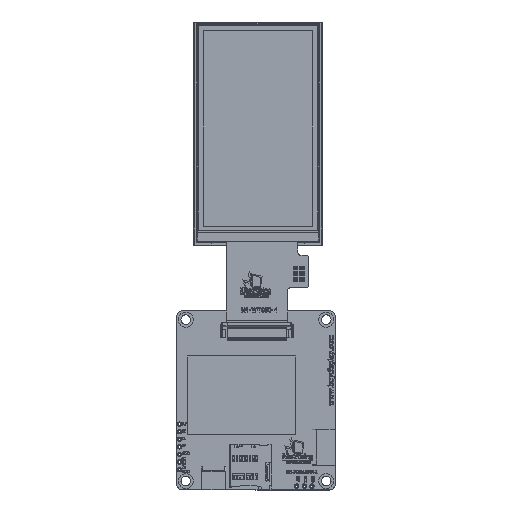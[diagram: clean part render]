
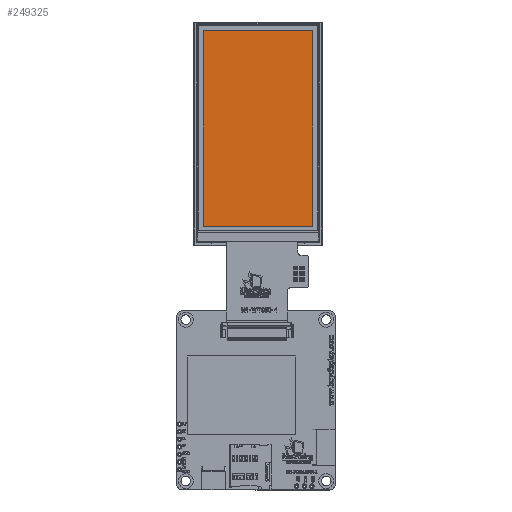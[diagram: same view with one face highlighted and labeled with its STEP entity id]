
A CAD part, top view. The second image highlights one B-rep face of the part: STEP entity #249325.
In plain terms, the highlighted planar face has unit normal (0, 0, 1).
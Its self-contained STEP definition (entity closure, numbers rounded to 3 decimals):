
#2776 = VERTEX_POINT ( 'NONE', #80721 ) ;
#15827 = ORIENTED_EDGE ( 'NONE', *, *, #252898, .F. ) ;
#15987 = CARTESIAN_POINT ( 'NONE',  ( 0., -30.875, 2.1 ) ) ;
#23542 = CARTESIAN_POINT ( 'NONE',  ( -18.36, 0., 2.1 ) ) ;
#23916 = ORIENTED_EDGE ( 'NONE', *, *, #133397, .F. ) ;
#31593 = VECTOR ( 'NONE', #108623, 1000. ) ;
#32929 = LINE ( 'NONE', #15987, #89369 ) ;
#33888 = CARTESIAN_POINT ( 'NONE',  ( -18.36, 34.405, 2.1 ) ) ;
#53385 = DIRECTION ( 'NONE',  ( 0., -1., 0. ) ) ;
#58235 = FACE_OUTER_BOUND ( 'NONE', #203068, .T. ) ;
#80268 = PLANE ( 'NONE',  #100591 ) ;
#80721 = CARTESIAN_POINT ( 'NONE',  ( -18.36, -30.875, 2.1 ) ) ;
#89369 = VECTOR ( 'NONE', #250959, 1000. ) ;
#93320 = VERTEX_POINT ( 'NONE', #239290 ) ;
#96042 = DIRECTION ( 'NONE',  ( 0., 0., 1. ) ) ;
#100591 = AXIS2_PLACEMENT_3D ( 'NONE', #156130, #96042, #140446 ) ;
#107335 = CARTESIAN_POINT ( 'NONE',  ( 0., 34.405, 2.1 ) ) ;
#108623 = DIRECTION ( 'NONE',  ( 1., 0., 0. ) ) ;
#114230 = VECTOR ( 'NONE', #200933, 1000. ) ;
#133397 = EDGE_CURVE ( 'NONE', #93320, #246896, #234676, .T. ) ;
#140446 = DIRECTION ( 'NONE',  ( 1., 0., 0. ) ) ;
#140557 = ORIENTED_EDGE ( 'NONE', *, *, #229267, .F. ) ;
#146991 = ORIENTED_EDGE ( 'NONE', *, *, #182888, .F. ) ;
#156130 = CARTESIAN_POINT ( 'NONE',  ( 0., 0., 2.1 ) ) ;
#164612 = CARTESIAN_POINT ( 'NONE',  ( 18.36, -30.875, 2.1 ) ) ;
#182888 = EDGE_CURVE ( 'NONE', #236525, #93320, #190695, .T. ) ;
#190695 = LINE ( 'NONE', #107335, #31593 ) ;
#192927 = CARTESIAN_POINT ( 'NONE',  ( 18.36, 0., 2.1 ) ) ;
#200612 = VECTOR ( 'NONE', #53385, 1000. ) ;
#200933 = DIRECTION ( 'NONE',  ( 0., 1., 0. ) ) ;
#203068 = EDGE_LOOP ( 'NONE', ( #140557, #15827, #23916, #146991 ) ) ;
#221859 = LINE ( 'NONE', #23542, #114230 ) ;
#229267 = EDGE_CURVE ( 'NONE', #2776, #236525, #221859, .T. ) ;
#234676 = LINE ( 'NONE', #192927, #200612 ) ;
#236525 = VERTEX_POINT ( 'NONE', #33888 ) ;
#239290 = CARTESIAN_POINT ( 'NONE',  ( 18.36, 34.405, 2.1 ) ) ;
#246896 = VERTEX_POINT ( 'NONE', #164612 ) ;
#249325 = ADVANCED_FACE ( 'NONE', ( #58235 ), #80268, .T. ) ;
#250959 = DIRECTION ( 'NONE',  ( -1., 0., 0. ) ) ;
#252898 = EDGE_CURVE ( 'NONE', #246896, #2776, #32929, .T. ) ;
